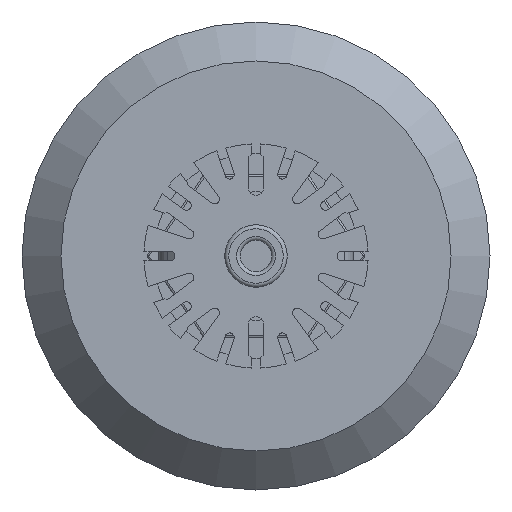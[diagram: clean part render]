
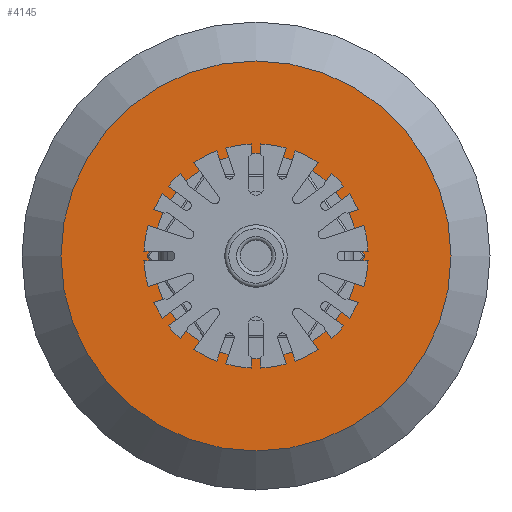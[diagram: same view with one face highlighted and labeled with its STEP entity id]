
A CAD part, front view. The second image highlights one B-rep face of the part: STEP entity #4145.
In plain terms, the highlighted planar face has unit normal (0, -1, 0).
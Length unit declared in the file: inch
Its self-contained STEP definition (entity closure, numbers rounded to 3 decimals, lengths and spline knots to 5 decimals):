
#863=FACE_BOUND('',#1106,.T.);
#878=FACE_OUTER_BOUND('',#1105,.T.);
#1105=EDGE_LOOP('',(#2594,#2595));
#1106=EDGE_LOOP('',(#2596,#2597));
#1346=CIRCLE('',#4440,1.25);
#1347=CIRCLE('',#4441,1.25);
#1348=CIRCLE('',#4443,0.6575);
#1349=CIRCLE('',#4444,0.6575);
#1577=VERTEX_POINT('',#6169);
#1578=VERTEX_POINT('',#6170);
#1579=VERTEX_POINT('',#6175);
#1580=VERTEX_POINT('',#6176);
#1975=EDGE_CURVE('',#1577,#1578,#1346,.T.);
#1976=EDGE_CURVE('',#1578,#1577,#1347,.T.);
#1978=EDGE_CURVE('',#1579,#1580,#1348,.T.);
#1979=EDGE_CURVE('',#1580,#1579,#1349,.T.);
#2594=ORIENTED_EDGE('',*,*,#1975,.T.);
#2595=ORIENTED_EDGE('',*,*,#1976,.T.);
#2596=ORIENTED_EDGE('',*,*,#1978,.F.);
#2597=ORIENTED_EDGE('',*,*,#1979,.F.);
#3810=PLANE('',#4442);
#4145=ADVANCED_FACE('',(#878,#863),#3810,.T.);
#4440=AXIS2_PLACEMENT_3D('',#6171,#4911,#4912);
#4441=AXIS2_PLACEMENT_3D('',#6172,#4913,#4914);
#4442=AXIS2_PLACEMENT_3D('',#6174,#4916,#4917);
#4443=AXIS2_PLACEMENT_3D('',#6177,#4918,#4919);
#4444=AXIS2_PLACEMENT_3D('',#6178,#4920,#4921);
#4911=DIRECTION('center_axis',(0.,-1.,0.));
#4912=DIRECTION('ref_axis',(1.,0.,0.));
#4913=DIRECTION('center_axis',(0.,-1.,0.));
#4914=DIRECTION('ref_axis',(1.,0.,0.));
#4916=DIRECTION('center_axis',(0.,-1.,0.));
#4917=DIRECTION('ref_axis',(-1.,0.,0.));
#4918=DIRECTION('center_axis',(0.,-1.,0.));
#4919=DIRECTION('ref_axis',(-1.,0.,0.));
#4920=DIRECTION('center_axis',(0.,-1.,0.));
#4921=DIRECTION('ref_axis',(-1.,0.,0.));
#6169=CARTESIAN_POINT('',(-1.25,1.8,0.));
#6170=CARTESIAN_POINT('',(1.25,1.8,0.));
#6171=CARTESIAN_POINT('Origin',(0.,1.8,0.));
#6172=CARTESIAN_POINT('Origin',(0.,1.8,0.));
#6174=CARTESIAN_POINT('Origin',(-0.6575,1.8,0.));
#6175=CARTESIAN_POINT('',(-0.6575,1.8,0.));
#6176=CARTESIAN_POINT('',(0.6575,1.8,0.));
#6177=CARTESIAN_POINT('Origin',(0.,1.8,0.));
#6178=CARTESIAN_POINT('Origin',(0.,1.8,0.));
